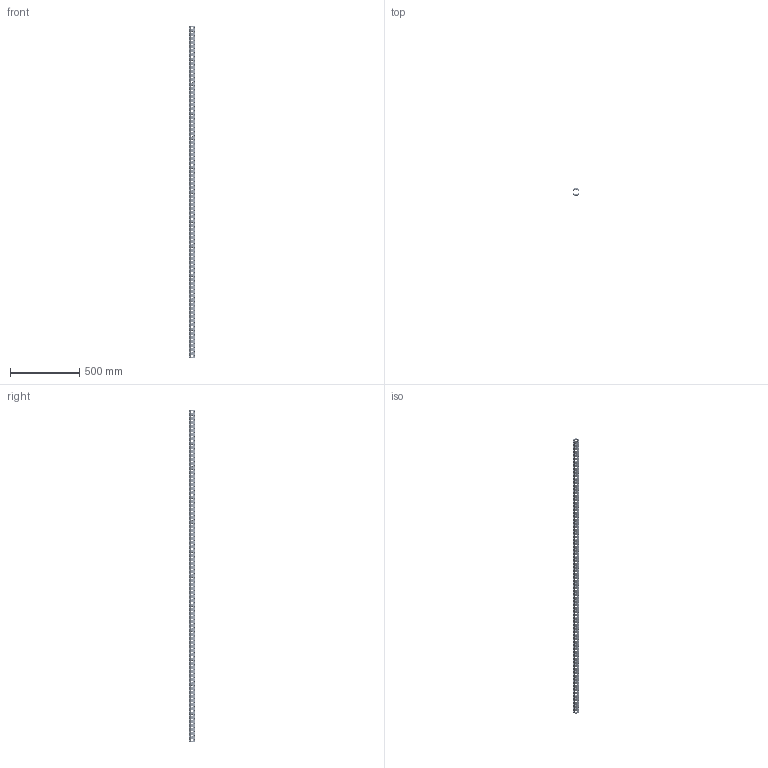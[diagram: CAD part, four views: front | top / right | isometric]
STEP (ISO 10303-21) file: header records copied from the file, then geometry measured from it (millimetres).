
FILE_DESCRIPTION(('CATIA V5 STEP Exchange'),'2;1');
FILE_NAME('U:\Room\唐宝山\EGT002\46-01-010309-01-EGT002-2398.stp','2021-08-24T02:05:31+00:00',('none'),('none'),'CATIA Version 5 Release 21 GA (IN-10)','CATIA V5 STEP AP203','none');
FILE_SCHEMA(('CONFIG_CONTROL_DESIGN'));
Products named in the file (1): 46-01-010309-01-EGT002-2398
Bounding box: 50 x 50 x 2398 mm (x, y, z)
Volume: 1708611.6 mm3; surface area: 823384 mm2
Topology: 1 solids, 1 shells, 3284 faces, 9046 edges, 5604 vertices
Faces by surface type: cone 1920, cylinder 1338, plane 26
Entity records: 133996 total; most frequent: CARTESIAN_POINT 54425, ORIENTED_EDGE 18092, DIRECTION 12819, EDGE_CURVE 9046, AXIS2_PLACEMENT_3D 6046, VERTEX_POINT 5604, EDGE_LOOP 4406, VECTOR 3490
